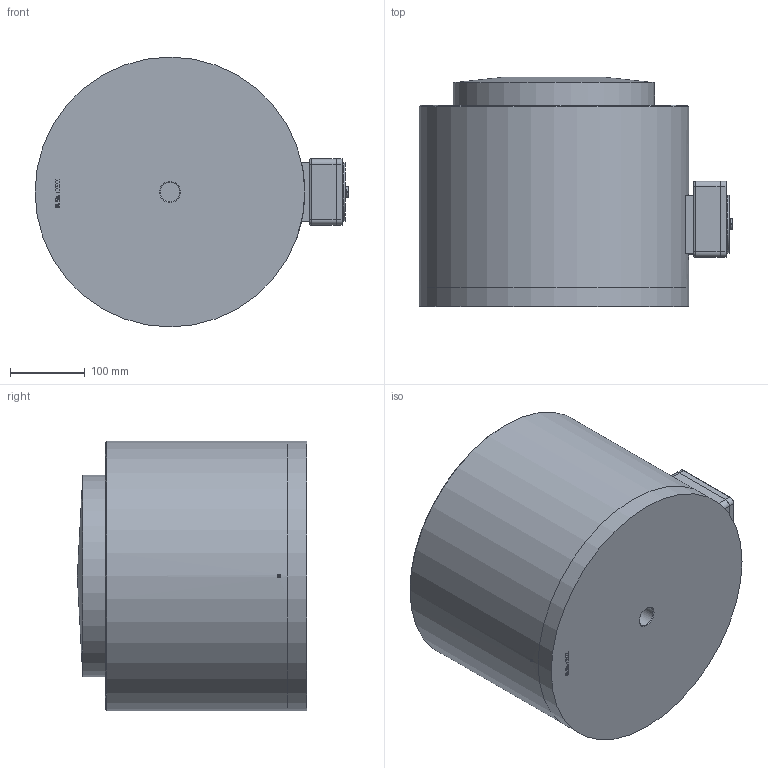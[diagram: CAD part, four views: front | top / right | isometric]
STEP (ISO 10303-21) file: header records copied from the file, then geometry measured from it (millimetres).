
FILE_DESCRIPTION(/* description */ (''),/* implementation_level */ '2;1');
FILE_NAME(/* name */ 'WNI1000TC.stp',/* time_stamp */ '2024-07-01T14:17:51+01:00',/* author */ ('Achacko'),/* organization */ (''),/* preprocessor_version */ 'ST-DEVELOPER v20',/* originating_system */ 'Autodesk Inventor 2025',/* authorisation */ '');
FILE_SCHEMA (('AUTOMOTIVE_DESIGN { 1 0 10303 214 3 1 1 }'));
Length unit declared in the file: inch
Products named in the file (1): WNI1000TC_Simplify_1
Bounding box: 421.17 x 307.59 x 362 mm (x, y, z)
Volume: 29921116.7 mm3; surface area: 1166761.7 mm2
Topology: 1 solids, 1 shells, 602 faces, 1526 edges, 992 vertices
Faces by surface type: plane 309, cylinder 221, bspline 32, cone 25, torus 14, sphere 1
Full cylindrical faces by diameter (mm): 2.1 x1, 2.5 x2, 3.2 x4, 3.242 x6, 4 x2, 4.1 x2, 4.2 x4, 4.3 x2, 5 x3, 6 x2, 7 x1, 8 x8, 8.1 x1, 8.376 x2, 9 x4, 12 x3, 14 x1, 14.2 x4, 15 x1, 15.7 x2, 16 x1, 16.7 x2, 26.211 x1, 38 x1, 40 x1, 44 x1, 68.2 x1, 70.2 x1, 74 x1, 78 x3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
Entity records: 19884 total; most frequent: CARTESIAN_POINT 4396, DIRECTION 3083, ORIENTED_EDGE 3044, EDGE_CURVE 1522, AXIS2_PLACEMENT_3D 1112, VERTEX_POINT 992, LINE 859, VECTOR 859
